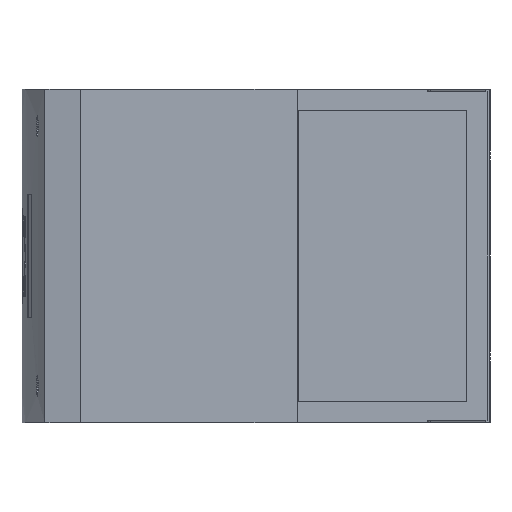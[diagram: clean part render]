
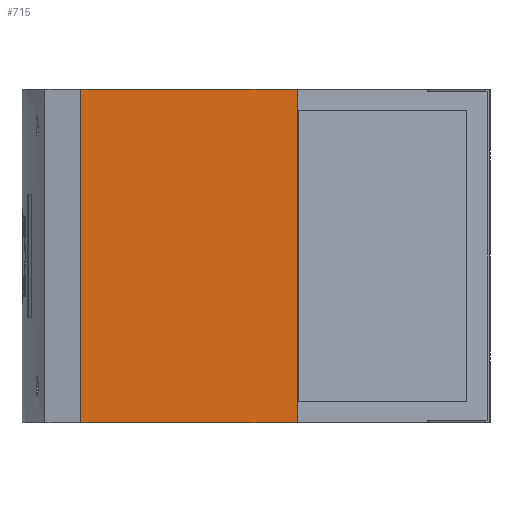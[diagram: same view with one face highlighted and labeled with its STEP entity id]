
A CAD part, left-side view. The second image highlights one B-rep face of the part: STEP entity #715.
In plain terms, the highlighted planar face has unit normal (-1, 0, 0).
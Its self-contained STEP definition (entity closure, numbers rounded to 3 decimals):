
#715 = ADVANCED_FACE ( 'NONE', ( #5231 ), #11312, .F. ) ;
#841 = EDGE_CURVE ( 'NONE', #8072, #11556, #7747, .T. ) ;
#1013 = DIRECTION ( 'NONE',  ( 0., -1., 0. ) ) ;
#1203 = CARTESIAN_POINT ( 'NONE',  ( -165.513, 0., 0. ) ) ;
#1481 = CARTESIAN_POINT ( 'NONE',  ( -165.513, 19.888, 174. ) ) ;
#2238 = AXIS2_PLACEMENT_3D ( 'NONE', #10241, #2616, #11199 ) ;
#2616 = DIRECTION ( 'NONE',  ( 1., 0., 0. ) ) ;
#2661 = VECTOR ( 'NONE', #3592, 1000. ) ;
#3302 = CARTESIAN_POINT ( 'NONE',  ( -165.513, 132.856, 174. ) ) ;
#3592 = DIRECTION ( 'NONE',  ( 0., 0., -1. ) ) ;
#3785 = CARTESIAN_POINT ( 'NONE',  ( -165.513, 19.888, 0. ) ) ;
#3828 = VECTOR ( 'NONE', #1013, 1000. ) ;
#4500 = LINE ( 'NONE', #1203, #6621 ) ;
#4505 = ORIENTED_EDGE ( 'NONE', *, *, #841, .T. ) ;
#4519 = EDGE_CURVE ( 'NONE', #11556, #6169, #4500, .T. ) ;
#4706 = ORIENTED_EDGE ( 'NONE', *, *, #8228, .F. ) ;
#4837 = CARTESIAN_POINT ( 'NONE',  ( -165.513, 0., 174. ) ) ;
#5231 = FACE_OUTER_BOUND ( 'NONE', #6292, .T. ) ;
#6104 = VERTEX_POINT ( 'NONE', #1481 ) ;
#6169 = VERTEX_POINT ( 'NONE', #3785 ) ;
#6292 = EDGE_LOOP ( 'NONE', ( #11592, #7706, #4706, #4505 ) ) ;
#6377 = LINE ( 'NONE', #4837, #3828 ) ;
#6621 = VECTOR ( 'NONE', #7877, 1000. ) ;
#7087 = CARTESIAN_POINT ( 'NONE',  ( -165.513, 132.856, 0. ) ) ;
#7348 = CARTESIAN_POINT ( 'NONE',  ( -165.513, 132.856, 174. ) ) ;
#7706 = ORIENTED_EDGE ( 'NONE', *, *, #9492, .F. ) ;
#7747 = LINE ( 'NONE', #7348, #2661 ) ;
#7877 = DIRECTION ( 'NONE',  ( 0., -1., 0. ) ) ;
#8072 = VERTEX_POINT ( 'NONE', #3302 ) ;
#8228 = EDGE_CURVE ( 'NONE', #8072, #6104, #6377, .T. ) ;
#9492 = EDGE_CURVE ( 'NONE', #6104, #6169, #10078, .T. ) ;
#10078 = LINE ( 'NONE', #12146, #11279 ) ;
#10241 = CARTESIAN_POINT ( 'NONE',  ( -165.513, 0., 174. ) ) ;
#11149 = DIRECTION ( 'NONE',  ( 0., 0., -1. ) ) ;
#11199 = DIRECTION ( 'NONE',  ( 0., 0., -1. ) ) ;
#11279 = VECTOR ( 'NONE', #11149, 1000. ) ;
#11312 = PLANE ( 'NONE',  #2238 ) ;
#11556 = VERTEX_POINT ( 'NONE', #7087 ) ;
#11592 = ORIENTED_EDGE ( 'NONE', *, *, #4519, .T. ) ;
#12146 = CARTESIAN_POINT ( 'NONE',  ( -165.513, 19.888, 174. ) ) ;
